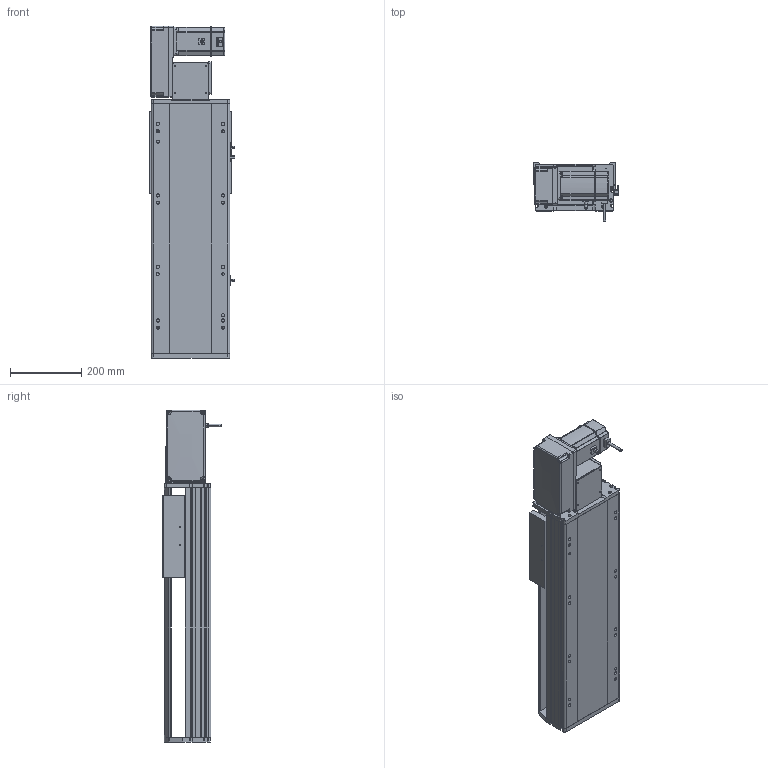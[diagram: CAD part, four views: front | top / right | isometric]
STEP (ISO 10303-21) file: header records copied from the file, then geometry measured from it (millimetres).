
FILE_DESCRIPTION (( 'STEP AP214' ), '1' );
FILE_NAME ('RTB22S-XX-350-L-M75-C4.STEP', '2025-12-12T03:11:41', ( '' ), ( '' ), 'SwSTEP 2.0', 'SolidWorks 2018', '' );
FILE_SCHEMA (( 'AUTOMOTIVE_DESIGN' ));
Length unit declared in the file: millimetre
Products named in the file (14): RTB22S-L-004賑釱^RTB22S-XX-XX-L-M75-C4; RTB22S-L-011菁釱^RTB22S-XX-XX-L-M75-C4; RTB22S-GY-018P^RTB22S-L-々湍釱蚾饜_RTB22S-XX-XX-L-M75-C4; RTB22S-GY-017P^RTB22S-L-々湍釱蚾饜_RTB22S-XX-XX-L-M75-C4; RTH22-GY-013外置感应片^RTB22S-XX-XX-L-M75-C4; RTB22S-L-々湍釱蚾饜^RTB22S-XX-XX-L-M75-C4; RTB22S-GY-001耜裔^RTB22S-XX-XX-L-M75-C4; OMRON EE-SX672 传感器^RTB22S-XX-XX-L-M75-C4; RTB22S-GY-005P^RTB22S-L-々湍釱蚾饜_RTB22S-XX-XX-L-M75-C4; 750W萇儂^RTB22S-XX-XX-L-M75-C4; RTB22S-GY-007奻裔^RTB22S-XX-XX-L-M75-C4; RTB22S-GY-008-M75--萇儂啣^RTB22S-L-々湍釱蚾饜_RTB22S-XX-XX-L-M75-C4; RTB22S-XX-350-L-M75-C4; RTB22S-GY-014--々湍釱^RTB22S-L-々湍釱蚾饜_RTB22S-XX-XX-L-M75-C4
Assembly tree (16 placements, depth 3):
  RTB22S-XX-350-L-M75-C4
    RTB22S-L-011菁釱^RTB22S-XX-XX-L-M75-C4
    750W萇儂^RTB22S-XX-XX-L-M75-C4
    RTB22S-L-004賑釱^RTB22S-XX-XX-L-M75-C4
    OMRON EE-SX672 传感器^RTB22S-XX-XX-L-M75-C4  x3
    RTH22-GY-013外置感应片^RTB22S-XX-XX-L-M75-C4
    RTB22S-GY-007奻裔^RTB22S-XX-XX-L-M75-C4
    RTB22S-GY-001耜裔^RTB22S-XX-XX-L-M75-C4
    RTB22S-L-々湍釱蚾饜^RTB22S-XX-XX-L-M75-C4
      RTB22S-GY-014--々湍釱^RTB22S-L-々湍釱蚾饜_RTB22S-XX-XX-L-M75-C4
      RTB22S-GY-017P^RTB22S-L-々湍釱蚾饜_RTB22S-XX-XX-L-M75-C4  x2
      RTB22S-GY-005P^RTB22S-L-々湍釱蚾饜_RTB22S-XX-XX-L-M75-C4
      RTB22S-GY-008-M75--萇儂啣^RTB22S-L-々湍釱蚾饜_RTB22S-XX-XX-L-M75-C4
      RTB22S-GY-018P^RTB22S-L-々湍釱蚾饜_RTB22S-XX-XX-L-M75-C4
Bounding box: 238.5 x 162.7 x 929 mm (x, y, z)
Volume: 13718136.3 mm3; surface area: 1458624.6 mm2
Topology: 15 solids, 15 shells, 1911 faces, 5186 edges, 3332 vertices
Faces by surface type: plane 907, cylinder 574, bspline 296, cone 122, sphere 8, torus 4
Entity records: 50136 total; most frequent: CARTESIAN_POINT 14580, ORIENTED_EDGE 7192, DIRECTION 6850, EDGE_CURVE 3596, AXIS2_PLACEMENT_3D 2390, VERTEX_POINT 2336, VECTOR 2070, LINE 2070
